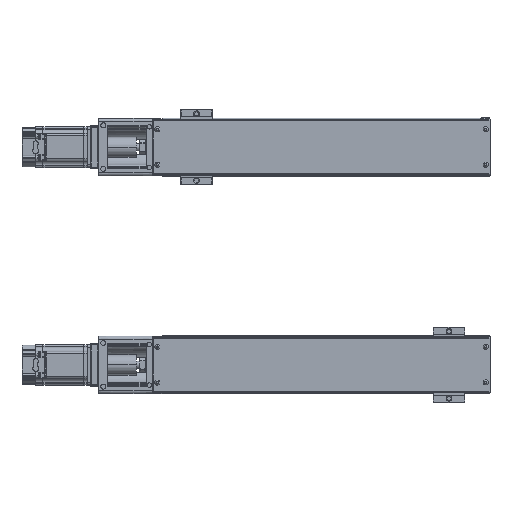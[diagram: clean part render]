
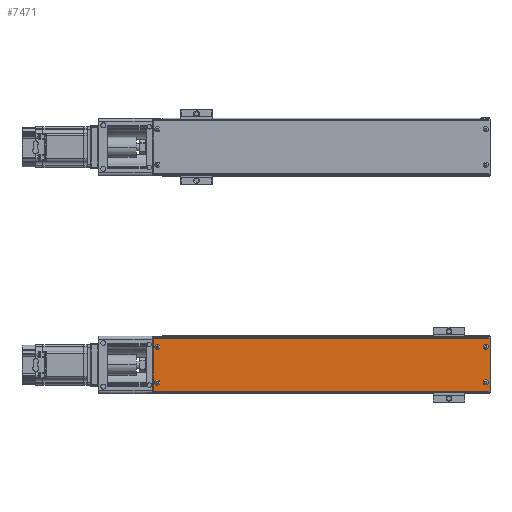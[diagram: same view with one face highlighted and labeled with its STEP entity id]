
A CAD part, top view. The second image highlights one B-rep face of the part: STEP entity #7471.
In plain terms, the highlighted planar face has unit normal (0, 0, 1).
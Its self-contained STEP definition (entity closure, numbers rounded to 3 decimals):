
#7471=ADVANCED_FACE('',(#17421),#17422,.T.);
#17421=FACE_OUTER_BOUND('',#33127,.T.);
#17422=PLANE('',#33128);
#33127=EDGE_LOOP('',(#60927,#60928,#60929,#60930));
#33128=AXIS2_PLACEMENT_3D('',#60931,#60932,#60933);
#60927=ORIENTED_EDGE('',*,*,#93342,.T.);
#60928=ORIENTED_EDGE('',*,*,#93343,.F.);
#60929=ORIENTED_EDGE('',*,*,#93344,.T.);
#60930=ORIENTED_EDGE('',*,*,#93345,.F.);
#60931=CARTESIAN_POINT('',(-349.88,-1045.19,-6.33));
#60932=DIRECTION('',(0.0,-0.0,1.0));
#60933=DIRECTION('',(1.0,0.,0.0));
#93342=EDGE_CURVE('',#111508,#111509,#111510,.T.);
#93343=EDGE_CURVE('',#111511,#111509,#111512,.T.);
#93344=EDGE_CURVE('',#111511,#111513,#111514,.T.);
#93345=EDGE_CURVE('',#111508,#111513,#111515,.T.);
#111508=VERTEX_POINT('',#135188);
#111509=VERTEX_POINT('',#135189);
#111510=LINE('',#135190,#135191);
#111511=VERTEX_POINT('',#135192);
#111512=LINE('',#135193,#135194);
#111513=VERTEX_POINT('',#135195);
#111514=LINE('',#135196,#135197);
#111515=LINE('',#135198,#135199);
#135188=CARTESIAN_POINT('',(-432.38,-1008.69,-6.33));
#135189=CARTESIAN_POINT('',(-432.38,-1081.69,-6.33));
#135190=CARTESIAN_POINT('',(-432.38,-1044.44,-6.33));
#135191=VECTOR('',#158337,1.0);
#135192=CARTESIAN_POINT('',(31.62,-1081.69,-6.33));
#135193=CARTESIAN_POINT('',(-349.88,-1081.69,-6.33));
#135194=VECTOR('',#158338,1.0);
#135195=CARTESIAN_POINT('',(31.62,-1008.69,-6.33));
#135196=CARTESIAN_POINT('',(31.62,-1045.19,-6.33));
#135197=VECTOR('',#158339,1.0);
#135198=CARTESIAN_POINT('',(-349.88,-1008.69,-6.33));
#135199=VECTOR('',#158340,1.0);
#158337=DIRECTION('',(0.0,-1.0,0.0));
#158338=DIRECTION('',(-1.0,0.,0.0));
#158339=DIRECTION('',(0.,1.0,0.));
#158340=DIRECTION('',(1.0,0.,0.0));
